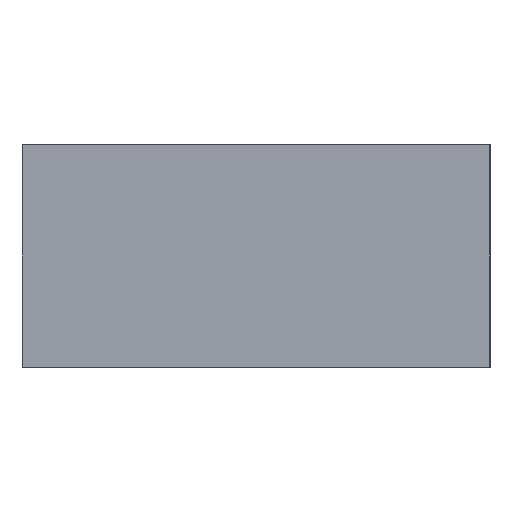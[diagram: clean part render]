
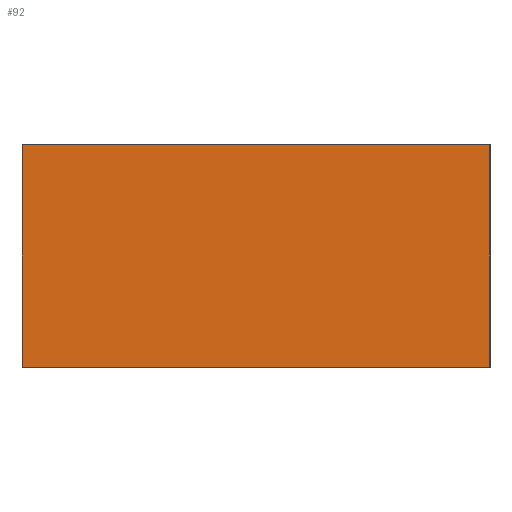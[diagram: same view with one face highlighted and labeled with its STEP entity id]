
A CAD part, left-side view. The second image highlights one B-rep face of the part: STEP entity #92.
In plain terms, the highlighted planar face has unit normal (-1, 0, 0).
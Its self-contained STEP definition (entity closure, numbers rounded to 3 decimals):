
#92=ADVANCED_FACE('',(#119),#109,.T.);
#109=PLANE('',#320);
#119=FACE_OUTER_BOUND('',#123,.T.);
#123=EDGE_LOOP('',(#156,#157,#158,#159));
#156=ORIENTED_EDGE('',*,*,#248,.F.);
#157=ORIENTED_EDGE('',*,*,#249,.F.);
#158=ORIENTED_EDGE('',*,*,#250,.T.);
#159=ORIENTED_EDGE('',*,*,#251,.T.);
#222=VERTEX_POINT('',#436);
#223=VERTEX_POINT('',#437);
#224=VERTEX_POINT('',#439);
#225=VERTEX_POINT('',#441);
#248=EDGE_CURVE('',#222,#223,#281,.T.);
#249=EDGE_CURVE('',#224,#222,#282,.T.);
#250=EDGE_CURVE('',#224,#225,#283,.T.);
#251=EDGE_CURVE('',#225,#223,#284,.T.);
#281=LINE('',#435,#300);
#282=LINE('',#438,#301);
#283=LINE('',#440,#302);
#284=LINE('',#442,#303);
#300=VECTOR('',#353,1.);
#301=VECTOR('',#354,1.);
#302=VECTOR('',#355,1.);
#303=VECTOR('',#356,1.);
#320=AXIS2_PLACEMENT_3D('',#443,#357,#358);
#353=DIRECTION('',(0.,-1.,0.));
#354=DIRECTION('',(0.,0.,1.));
#355=DIRECTION('',(0.,-1.,0.));
#356=DIRECTION('',(0.,0.,1.));
#357=DIRECTION('',(-1.,0.,0.));
#358=DIRECTION('',(0.,-1.,0.));
#435=CARTESIAN_POINT('',(0.,42.,0.));
#436=CARTESIAN_POINT('',(0.,42.,0.));
#437=CARTESIAN_POINT('',(0.,0.,0.));
#438=CARTESIAN_POINT('',(0.,42.,-20.));
#439=CARTESIAN_POINT('',(0.,42.,-20.));
#440=CARTESIAN_POINT('',(0.,42.,-20.));
#441=CARTESIAN_POINT('',(0.,0.,-20.));
#442=CARTESIAN_POINT('',(0.,0.,-20.));
#443=CARTESIAN_POINT('',(0.,42.,-20.));
